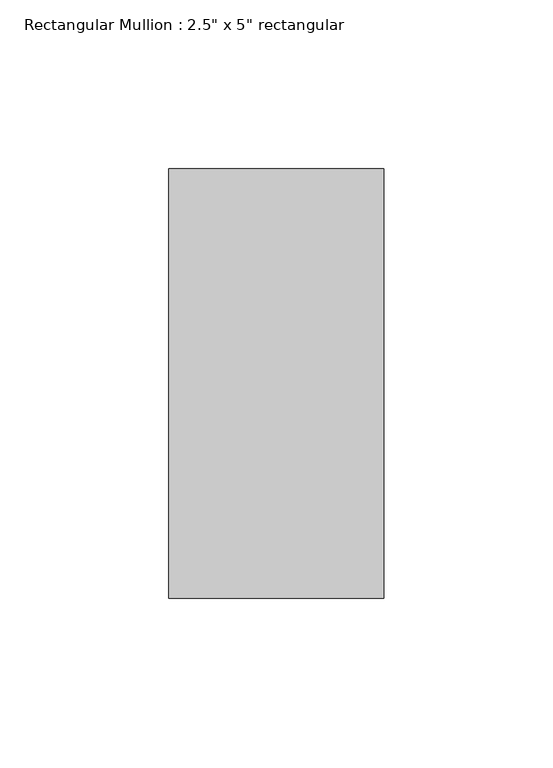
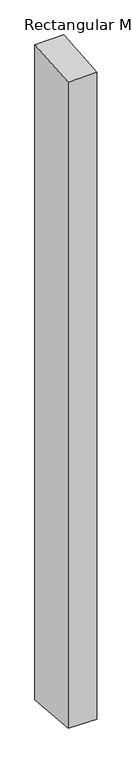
"""IFC4 building model written with IfcOpenShell, lengths in millimetres: member geometry."""

from ifc_helpers import new_model, si_unit, origin, place, context, project, spatial, faceted_brep, source, transform, mapped, element, save


def member_53f4afea(model_context):
    return source(origin(), model_context, "Body", "Brep", [
        faceted_brep([(-63.5, 63.5, 4.6198205), (0.0, 63.5, 5.2701621), (0.0, 63.5, -1529.2701621), (-63.5, 63.5, -1528.6198205), (-63.5, -63.5, -5.9205037), (-63.5, -63.5, -1518.0794963), (0.0, -63.5, -5.2701621), (0.0, -63.5, -1518.7298379)], [[[0, 1, 2, 3]], [[4, 0, 3, 5]], [[6, 4, 5, 7]], [[1, 6, 7, 2]], [[1, 0, 4, 6]], [[2, 7, 5, 3]]]),
    ])


if __name__ == "__main__":
    model = new_model("IFC4")
    model_context = context("Model", 3, world=origin())
    ifc_project = project(units=[si_unit("LENGTHUNIT", "METRE", prefix="MILLI")], contexts=[model_context])
    site = spatial("IfcSite", under=ifc_project)
    building = spatial("IfcBuilding", under=site)
    placement = place(None, origin())
    member_shape = member_53f4afea(model_context)
    element("IfcMember", 1, ObjectType="Rectangular Mullion : 2.5\" x 5\" rectangular", at=placement, inside=building, context=model_context, shape_type="MappedRepresentation", body=[
        mapped(member_shape, transform((0.0, 0.0, 0.0), x_axis=(1.0, 0.0, 0.0), y_axis=(0.0, 1.0, 0.0), z_axis=(0.0, 0.0, 1.0))),
    ])
    save(model, "model.ifc")
